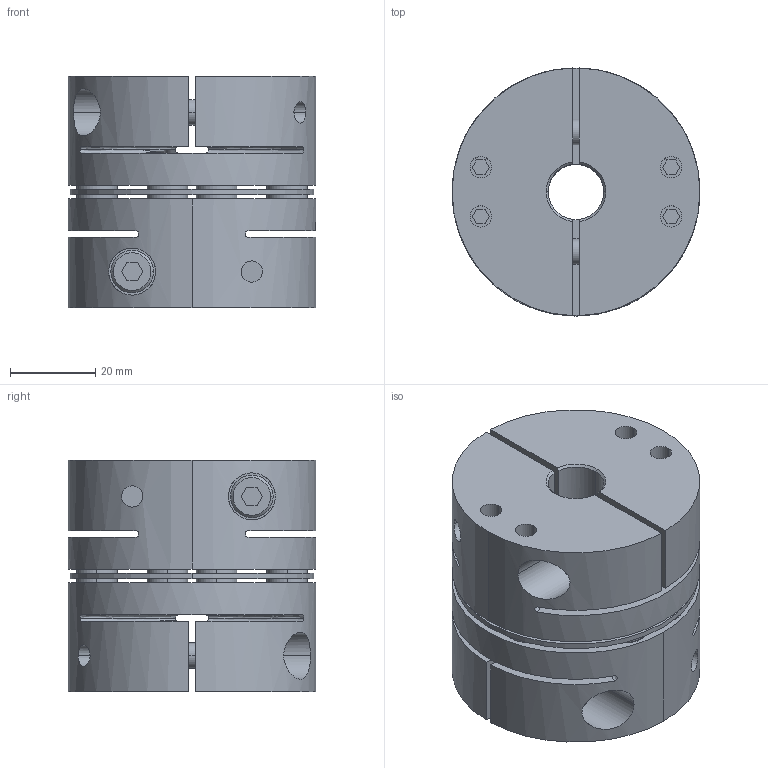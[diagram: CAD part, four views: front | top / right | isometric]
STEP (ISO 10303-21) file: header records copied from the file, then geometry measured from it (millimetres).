
FILE_DESCRIPTION((''),'2;1');
FILE_NAME('TAS-58C-13×13.stp','2022-11-14T21:51:26',(''),(''),'AutoCAD STEP 2000i','AutoCAD 2000i',', , ');
FILE_SCHEMA(('CONFIG_CONTROL_DESIGN'));
Length unit declared in the file: millimetre
Products named in the file (5): TAS-58C-12×12; 忣兜1; TA58C-12-2; CAP-M6×20; TA58C-12
Assembly tree (5 placements, depth 3):
  TAS-58C-12×12
    忣兜1
    TA58C-12-2
      CAP-M6×20
    TA58C-12
      CAP-M6×20
Bounding box: 58 x 58 x 54.25 mm (x, y, z)
Volume: 113713.3 mm3; surface area: 42731.8 mm2
Topology: 1 solids, 1 shells, 360 faces, 901 edges, 611 vertices
Faces by surface type: plane 160, cylinder 148, cone 36, bspline 16
Entity records: 12703 total; most frequent: CARTESIAN_POINT 3789, DIRECTION 1908, ORIENTED_EDGE 1720, EDGE_CURVE 860, AXIS2_PLACEMENT_3D 729, VERTEX_POINT 564, EDGE_LOOP 464, VECTOR 450
